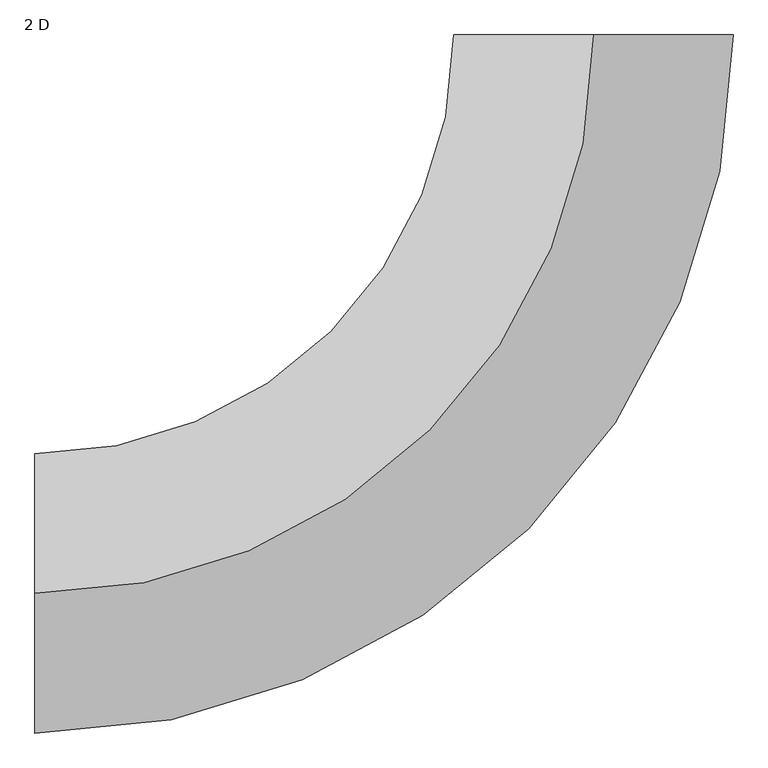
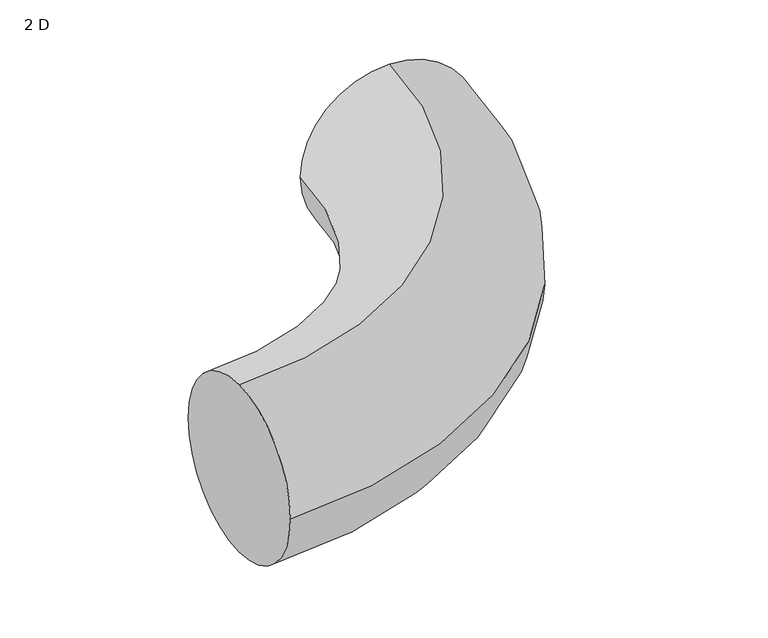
"""IFC4 building model written with IfcOpenShell, lengths in millimetres: duct fitting geometry, M_Cotovelo redondo : 2 D."""

from ifc_helpers import new_model, si_unit, point, frame, origin, place, context, project, spatial, circle_curve, ellipse_curve, trimmed, source, transform, mapped, element, save
from ifc_brep_helpers import plane_surface, revolved_surface, advanced_brep


def duct_fitting_2_d_33ab650d(model_context):
    return source(origin(), model_context, "Body", "AdvancedBrep", [
        advanced_brep(
        [(-800.0, 0.0, 200.0), (-800.0, 200.0, 0.0), (-800.0, 0.0, -200.0), (-800.0, -200.0, 0.0), (0.0, 800.0, 200.0), (200.0, 800.0, 0.0), (0.0, 800.0, -200.0), (-200.0, 800.0, 0.0)],
        [
            (0, 1, circle_curve(frame((-800.0, 0.0, 0.0), z_axis=(-1.0, 0.0, 0.0), x_axis=(0.0, 1.0, 0.0)), 200.0)),
            (1, 2, circle_curve(frame((-800.0, 0.0, 0.0), z_axis=(-1.0, 0.0, 0.0), x_axis=(0.0, 1.0, 0.0)), 200.0)),
            (2, 3, circle_curve(frame((-800.0, 0.0, 0.0), z_axis=(-1.0, 0.0, 0.0), x_axis=(0.0, 1.0, 0.0)), 200.0)),
            (3, 0, circle_curve(frame((-800.0, 0.0, 0.0), z_axis=(-1.0, 0.0, 0.0), x_axis=(0.0, 1.0, 0.0)), 200.0)),
            (4, 5, circle_curve(frame((0.0, 800.0, 0.0), z_axis=(0.0, 1.0, 0.0), x_axis=(-1.0, 0.0, 0.0)), 200.0)),
            (5, 6, circle_curve(frame((0.0, 800.0, 0.0), z_axis=(0.0, 1.0, 0.0), x_axis=(-1.0, 0.0, 0.0)), 200.0)),
            (6, 7, circle_curve(frame((0.0, 800.0, 0.0), z_axis=(0.0, 1.0, 0.0), x_axis=(-1.0, 0.0, 0.0)), 200.0)),
            (7, 4, circle_curve(frame((0.0, 800.0, 0.0), z_axis=(0.0, 1.0, 0.0), x_axis=(-1.0, 0.0, 0.0)), 200.0)),
            (7, 1, circle_curve(frame((-800.0, 800.0, 0.0), z_axis=(0.0, 0.0, -1.0), x_axis=(0.0, -1.0, 0.0)), 600.0)),
            (0, 4, circle_curve(frame((-800.0, 800.0, 200.0), z_axis=(0.0, 0.0, 1.0), x_axis=(0.0, -1.0, 0.0)), 800.0)),
            (6, 2, circle_curve(frame((-800.0, 800.0, -200.0), z_axis=(0.0, 0.0, -1.0), x_axis=(0.0, -1.0, 0.0)), 800.0)),
            (5, 3, circle_curve(frame((-800.0, 800.0, 0.0), z_axis=(0.0, 0.0, -1.0), x_axis=(0.0, -1.0, 0.0)), 1000.0)),
        ],
        [
            plane_surface(frame((-800.0, 0.0, 0.0), z_axis=(-1.0, 0.0, 0.0), x_axis=(0.0, 0.0, 1.0))),
            plane_surface(frame((0.0, 800.0, 0.0), z_axis=(0.0, 1.0, 0.0), x_axis=(0.0, 0.0, 1.0))),
            revolved_surface(trimmed(ellipse_curve(frame((-800.0, 0.0, 0.0), z_axis=(-1.0, 0.0, 0.0), x_axis=(0.0, 1.0, 0.0)), 200.0, 200.0), [point((-800.0, 0.0, 200.0))], [point((-800.0, 200.0, 0.0))], True, "CARTESIAN"), (-800.0, 800.0, 0.0), (0.0, 0.0, 1.0)),
            revolved_surface(trimmed(ellipse_curve(frame((-800.0, 0.0, 0.0), z_axis=(-1.0, 0.0, 0.0), x_axis=(0.0, 1.0, 0.0)), 200.0, 200.0), [point((-800.0, 200.0, 0.0))], [point((-800.0, 0.0, -200.0))], True, "CARTESIAN"), (-800.0, 800.0, 0.0), (0.0, 0.0, 1.0)),
            revolved_surface(trimmed(ellipse_curve(frame((-800.0, 0.0, 0.0), z_axis=(-1.0, 0.0, 0.0), x_axis=(0.0, 1.0, 0.0)), 200.0, 200.0), [point((-800.0, 0.0, -200.0))], [point((-800.0, -200.0, 0.0))], True, "CARTESIAN"), (-800.0, 800.0, 0.0), (0.0, 0.0, 1.0)),
            revolved_surface(trimmed(ellipse_curve(frame((-800.0, 0.0, 0.0), z_axis=(-1.0, 0.0, 0.0), x_axis=(0.0, 1.0, 0.0)), 200.0, 200.0), [point((-800.0, -200.0, 0.0))], [point((-800.0, 0.0, 200.0))], True, "CARTESIAN"), (-800.0, 800.0, 0.0), (0.0, 0.0, 1.0)),
        ],
        [
            (0, [[1, 2, 3, 4]]),
            (1, [[5, 6, 7, 8]]),
            (2, [[9, -1, 10, -8]]),
            (3, [[11, -2, -9, -7]]),
            (4, [[12, -3, -11, -6]]),
            (5, [[-10, -4, -12, -5]]),
        ],
    ),
    ])


if __name__ == "__main__":
    model = new_model("IFC4")
    model_context = context("Model", 3, world=origin())
    ifc_project = project(units=[si_unit("LENGTHUNIT", "METRE", prefix="MILLI")], contexts=[model_context])
    site = spatial("IfcSite", under=ifc_project)
    building = spatial("IfcBuilding", under=site)
    placement = place(None, origin())
    duct_fitting_2_d_shape = duct_fitting_2_d_33ab650d(model_context)
    element("IfcDuctFitting", 1, ObjectType="M_Cotovelo redondo : 2 D", at=placement, inside=building, context=model_context, shape_type="MappedRepresentation", body=[
        mapped(duct_fitting_2_d_shape, transform((0.0, 0.0, 0.0), x_axis=(1.0, 0.0, 0.0), y_axis=(0.0, 1.0, 0.0), z_axis=(0.0, 0.0, 1.0))),
    ])
    save(model, "model.ifc")
